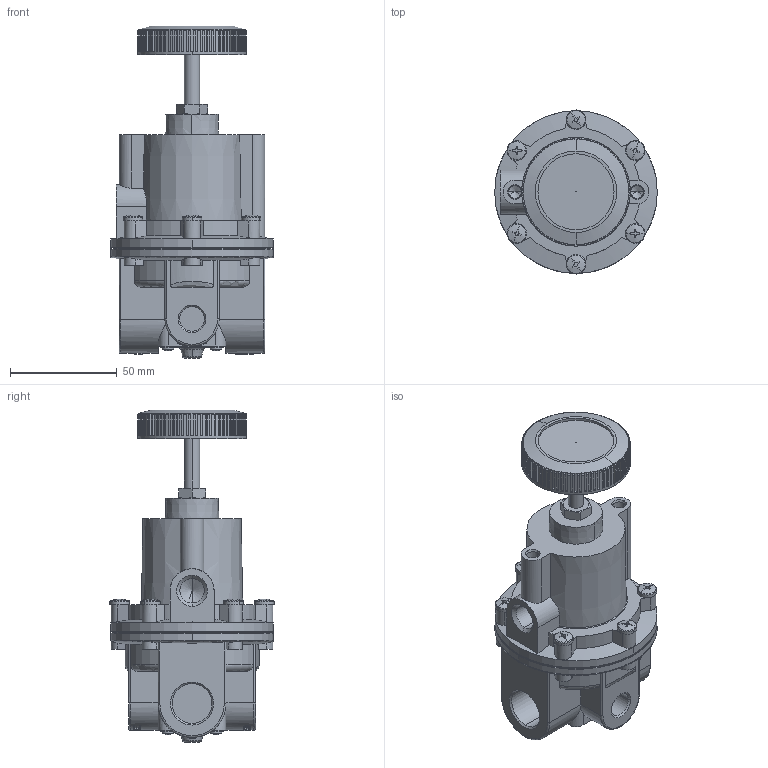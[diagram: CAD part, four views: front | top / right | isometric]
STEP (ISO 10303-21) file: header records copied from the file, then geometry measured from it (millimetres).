
FILE_DESCRIPTION((''),'2;1');
FILE_NAME('T700-DA','2024-05-14T09:27:50',('Administrator'),(''),'CREO PARAMETRIC BY PTC INC, 2019030','CREO PARAMETRIC BY PTC INC, 2019030','');
FILE_SCHEMA(('AUTOMOTIVE_DESIGN { 1 0 10303 214 1 1 1 1 }'));
Length unit declared in the file: inch
Products named in the file (1): T700-DA
Bounding box: 76.2 x 76.9 x 155.63 mm (x, y, z)
Volume: 217031.8 mm3; surface area: 69578.8 mm2
Topology: 1 solids, 4 shells, 1116 faces, 3203 edges, 2136 vertices
Faces by surface type: plane 645, cylinder 201, torus 104, extrusion 94, cone 54, bspline 18
Entity records: 48761 total; most frequent: CARTESIAN_POINT 12230, ORIENTED_EDGE 6394, DIRECTION 5272, EDGE_CURVE 3197, VERTEX_POINT 2136, AXIS2_PLACEMENT_3D 1855, VECTOR 1562, LINE 1468
